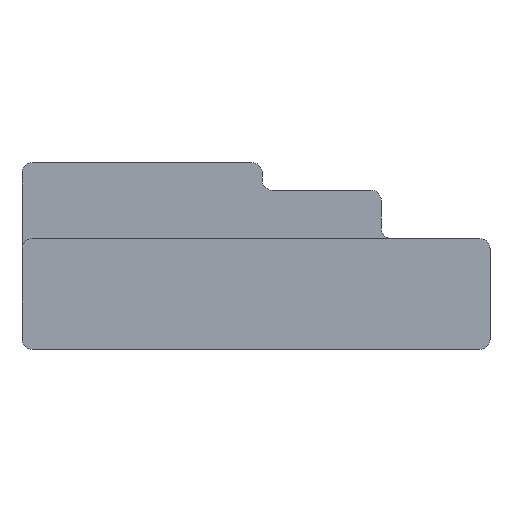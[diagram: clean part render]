
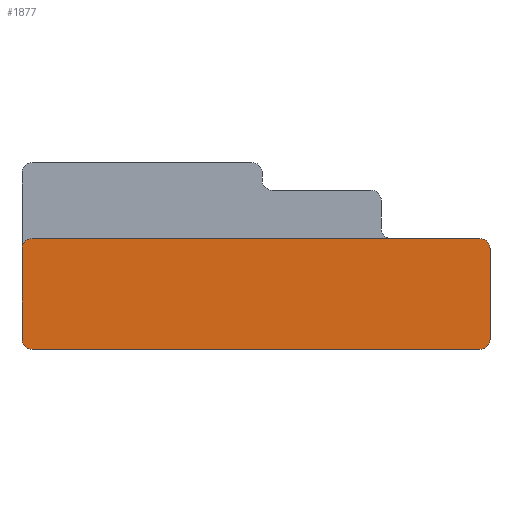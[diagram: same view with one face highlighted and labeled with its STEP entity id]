
A CAD part, front view. The second image highlights one B-rep face of the part: STEP entity #1877.
In plain terms, the highlighted planar face has unit normal (0, -1, 0).
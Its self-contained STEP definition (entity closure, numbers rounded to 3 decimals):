
#27=LINE('',#2646,#257);
#55=LINE('',#2711,#285);
#103=LINE('',#2831,#333);
#113=LINE('',#2852,#343);
#257=VECTOR('',#2127,1000.);
#285=VECTOR('',#2181,1000.);
#333=VECTOR('',#2289,1000.);
#343=VECTOR('',#2311,1000.);
#506=PLANE('',#2015);
#726=ORIENTED_EDGE('',*,*,#1224,.F.);
#727=ORIENTED_EDGE('',*,*,#1148,.T.);
#728=ORIENTED_EDGE('',*,*,#1151,.T.);
#729=ORIENTED_EDGE('',*,*,#1227,.T.);
#730=ORIENTED_EDGE('',*,*,#1119,.T.);
#731=ORIENTED_EDGE('',*,*,#1116,.T.);
#732=ORIENTED_EDGE('',*,*,#1211,.F.);
#733=ORIENTED_EDGE('',*,*,#1226,.T.);
#1116=EDGE_CURVE('',#1392,#1390,#1570,.T.);
#1119=EDGE_CURVE('',#1394,#1392,#27,.T.);
#1148=EDGE_CURVE('',#1416,#1414,#1574,.T.);
#1151=EDGE_CURVE('',#1414,#1418,#55,.T.);
#1211=EDGE_CURVE('',#1460,#1390,#103,.T.);
#1224=EDGE_CURVE('',#1416,#1465,#113,.T.);
#1226=EDGE_CURVE('',#1460,#1465,#1591,.T.);
#1227=EDGE_CURVE('',#1418,#1394,#1592,.T.);
#1390=VERTEX_POINT('',#2638);
#1392=VERTEX_POINT('',#2641);
#1394=VERTEX_POINT('',#2647);
#1414=VERTEX_POINT('',#2703);
#1416=VERTEX_POINT('',#2706);
#1418=VERTEX_POINT('',#2712);
#1460=VERTEX_POINT('',#2832);
#1465=VERTEX_POINT('',#2853);
#1570=CIRCLE('',#1961,0.5);
#1574=CIRCLE('',#1974,0.5);
#1591=CIRCLE('',#2014,0.5);
#1592=CIRCLE('',#2016,0.5);
#1650=EDGE_LOOP('',(#726,#727,#728,#729,#730,#731,#732,#733));
#1753=FACE_BOUND('',#1650,.T.);
#1877=ADVANCED_FACE('',(#1753),#506,.T.);
#1961=AXIS2_PLACEMENT_3D('',#2640,#2120,#2121);
#1974=AXIS2_PLACEMENT_3D('',#2705,#2174,#2175);
#2014=AXIS2_PLACEMENT_3D('',#2856,#2315,#2316);
#2015=AXIS2_PLACEMENT_3D('',#2857,#2317,#2318);
#2016=AXIS2_PLACEMENT_3D('',#2858,#2319,#2320);
#2120=DIRECTION('',(0.,-1.,0.));
#2121=DIRECTION('',(1.,0.,0.));
#2127=DIRECTION('',(0.,0.,1.));
#2174=DIRECTION('',(0.,-1.,0.));
#2175=DIRECTION('',(-1.,0.,0.));
#2181=DIRECTION('',(1.,0.,0.));
#2289=DIRECTION('',(1.,0.,0.));
#2311=DIRECTION('',(0.,0.,1.));
#2315=DIRECTION('',(0.,-1.,0.));
#2316=DIRECTION('',(0.,0.,1.));
#2317=DIRECTION('',(0.,-1.,0.));
#2318=DIRECTION('',(1.,0.,0.));
#2319=DIRECTION('',(0.,-1.,0.));
#2320=DIRECTION('',(0.,0.,-1.));
#2638=CARTESIAN_POINT('',(10.9,-11.6,5.4));
#2640=CARTESIAN_POINT('',(10.9,-11.6,4.9));
#2641=CARTESIAN_POINT('',(11.4,-11.6,4.9));
#2646=CARTESIAN_POINT('',(11.4,-11.6,0.5));
#2647=CARTESIAN_POINT('',(11.4,-11.6,0.5));
#2703=CARTESIAN_POINT('',(-10.9,-11.6,0.));
#2705=CARTESIAN_POINT('',(-10.9,-11.6,0.5));
#2706=CARTESIAN_POINT('',(-11.4,-11.6,0.5));
#2711=CARTESIAN_POINT('',(-10.9,-11.6,0.));
#2712=CARTESIAN_POINT('',(10.9,-11.6,0.));
#2831=CARTESIAN_POINT('',(-10.9,-11.6,5.4));
#2832=CARTESIAN_POINT('',(-10.9,-11.6,5.4));
#2852=CARTESIAN_POINT('',(-11.4,-11.6,0.5));
#2853=CARTESIAN_POINT('',(-11.4,-11.6,4.9));
#2856=CARTESIAN_POINT('',(-10.9,-11.6,4.9));
#2857=CARTESIAN_POINT('',(-11.4,-11.6,0.));
#2858=CARTESIAN_POINT('',(10.9,-11.6,0.5));
